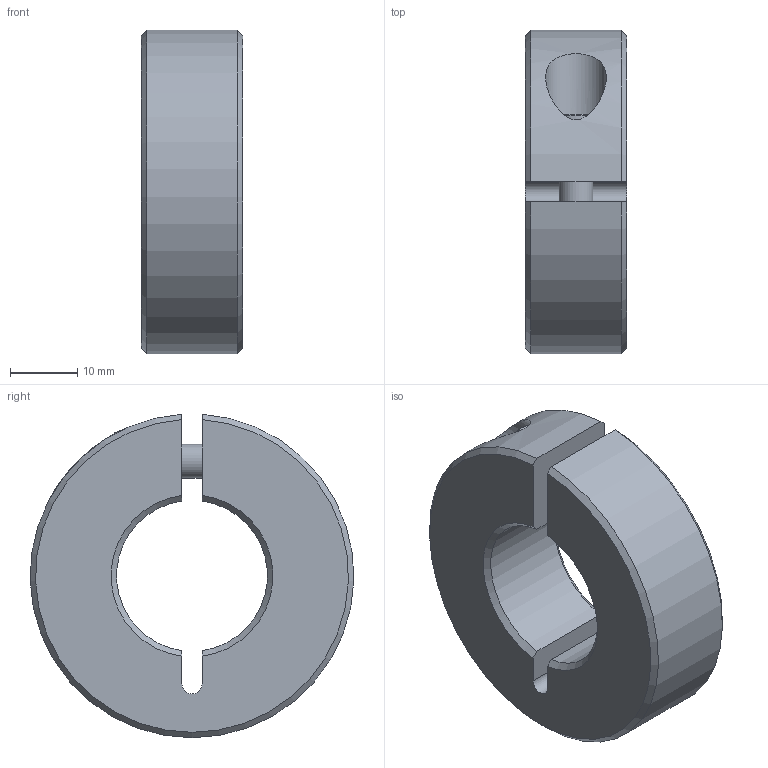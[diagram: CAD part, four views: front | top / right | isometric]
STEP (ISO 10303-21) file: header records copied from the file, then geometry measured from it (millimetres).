
FILE_DESCRIPTION( ( 'STEP AP203' ), '1' );
FILE_NAME( 'C:/Temp/Ganter_Step_05_03_2020/data/3_2/gn706_3/gn706_3_st/Threaded set collar GN 706.3-48-M24x1,5-ST.stp', '2020-03-13T05:33:35', ( 'License CC BY-ND 4.0' ), ( 'CADENAS' ), ' ', 'PARTsolutions', ' ' );
FILE_SCHEMA( ( 'CONFIG_CONTROL_DESIGN' ) );
Length unit declared in the file: millimetre
Products named in the file (1): _Threaded set collar GN 706.3-48-M24x1,5-ST
Bounding box: 15 x 47.98 x 47.95 mm (x, y, z)
Volume: 19832 mm3; surface area: 6984.2 mm2
Topology: 1 solids, 2 shells, 35 faces, 83 edges, 55 vertices
Faces by surface type: plane 17, cylinder 9, cone 8, torus 1
Full cylindrical faces by diameter (mm): 4.134 x1, 5 x1, 5.3 x1, 8.5 x1, 9 x1
Entity records: 1078 total; most frequent: CARTESIAN_POINT 268, DIRECTION 156, ORIENTED_EDGE 144, EDGE_CURVE 72, AXIS2_PLACEMENT_3D 61, VERTEX_POINT 53, EDGE_LOOP 48, FACE_OUTER_BOUND 41
